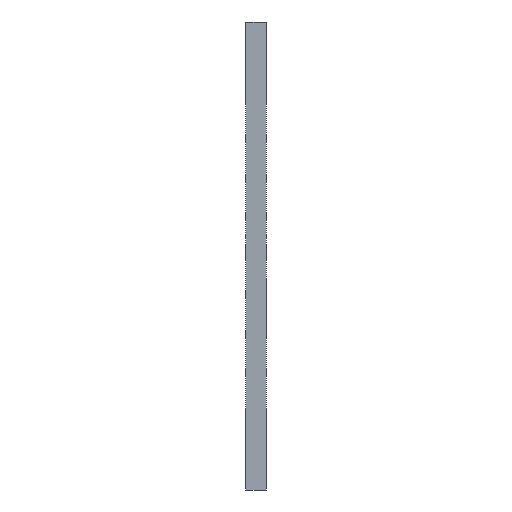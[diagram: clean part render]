
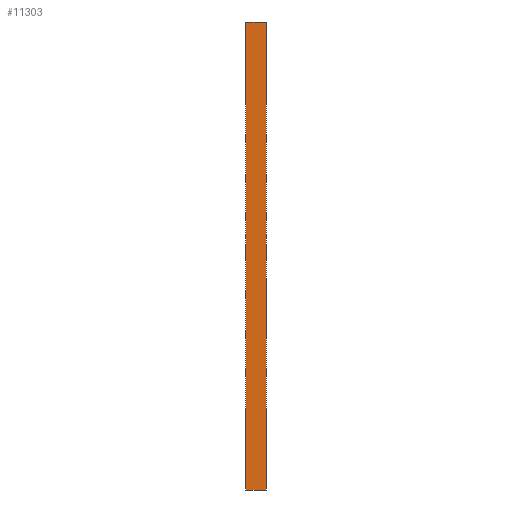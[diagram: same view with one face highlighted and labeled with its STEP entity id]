
A CAD part, left-side view. The second image highlights one B-rep face of the part: STEP entity #11303.
In plain terms, the highlighted planar face has unit normal (-1, 0, 0).
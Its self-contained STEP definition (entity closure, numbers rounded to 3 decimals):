
#72 = DIRECTION ( 'NONE',  ( 0., -1., 0. ) ) ;
#780 = EDGE_CURVE ( 'NONE', #12145, #2659, #4047, .T. ) ;
#1099 = CARTESIAN_POINT ( 'NONE',  ( -150., 0., 150. ) ) ;
#1750 = VERTEX_POINT ( 'NONE', #1099 ) ;
#2061 = ORIENTED_EDGE ( 'NONE', *, *, #780, .F. ) ;
#2140 = PLANE ( 'NONE',  #12219 ) ;
#2659 = VERTEX_POINT ( 'NONE', #5408 ) ;
#3506 = VECTOR ( 'NONE', #7056, 1000. ) ;
#3655 = EDGE_CURVE ( 'NONE', #2659, #1750, #9477, .T. ) ;
#4046 = EDGE_CURVE ( 'NONE', #9067, #1750, #9354, .T. ) ;
#4047 = LINE ( 'NONE', #12072, #12167 ) ;
#4369 = ORIENTED_EDGE ( 'NONE', *, *, #3655, .F. ) ;
#4466 = VECTOR ( 'NONE', #9209, 1000. ) ;
#4797 = CARTESIAN_POINT ( 'NONE',  ( -150., 13., -150. ) ) ;
#5408 = CARTESIAN_POINT ( 'NONE',  ( -150., 13., 150. ) ) ;
#6229 = ORIENTED_EDGE ( 'NONE', *, *, #9532, .T. ) ;
#6466 = ORIENTED_EDGE ( 'NONE', *, *, #4046, .T. ) ;
#6639 = DIRECTION ( 'NONE',  ( 1., 0., 0. ) ) ;
#7056 = DIRECTION ( 'NONE',  ( 0., -1., 0. ) ) ;
#7291 = DIRECTION ( 'NONE',  ( 0., 0., 1. ) ) ;
#7570 = CARTESIAN_POINT ( 'NONE',  ( -150., 0., -150. ) ) ;
#8455 = CARTESIAN_POINT ( 'NONE',  ( -150., 13., 150. ) ) ;
#9008 = LINE ( 'NONE', #4797, #10522 ) ;
#9067 = VERTEX_POINT ( 'NONE', #7570 ) ;
#9209 = DIRECTION ( 'NONE',  ( 0., 0., 1. ) ) ;
#9354 = LINE ( 'NONE', #13634, #4466 ) ;
#9477 = LINE ( 'NONE', #8455, #3506 ) ;
#9532 = EDGE_CURVE ( 'NONE', #12145, #9067, #9008, .T. ) ;
#10522 = VECTOR ( 'NONE', #72, 1000. ) ;
#11017 = CARTESIAN_POINT ( 'NONE',  ( -150., 13., -150. ) ) ;
#11126 = DIRECTION ( 'NONE',  ( 0., 0., -1. ) ) ;
#11303 = ADVANCED_FACE ( 'NONE', ( #12235 ), #2140, .F. ) ;
#12072 = CARTESIAN_POINT ( 'NONE',  ( -150., 13., -150. ) ) ;
#12145 = VERTEX_POINT ( 'NONE', #11017 ) ;
#12167 = VECTOR ( 'NONE', #7291, 1000. ) ;
#12219 = AXIS2_PLACEMENT_3D ( 'NONE', #14374, #6639, #11126 ) ;
#12235 = FACE_OUTER_BOUND ( 'NONE', #13623, .T. ) ;
#13623 = EDGE_LOOP ( 'NONE', ( #6466, #4369, #2061, #6229 ) ) ;
#13634 = CARTESIAN_POINT ( 'NONE',  ( -150., 0., -150. ) ) ;
#14374 = CARTESIAN_POINT ( 'NONE',  ( -150., 13., -150. ) ) ;
